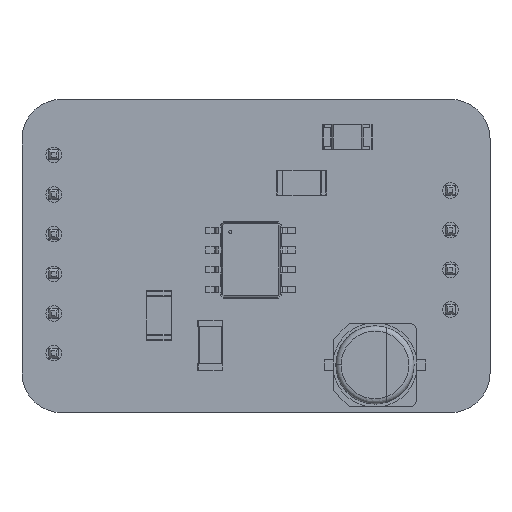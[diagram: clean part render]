
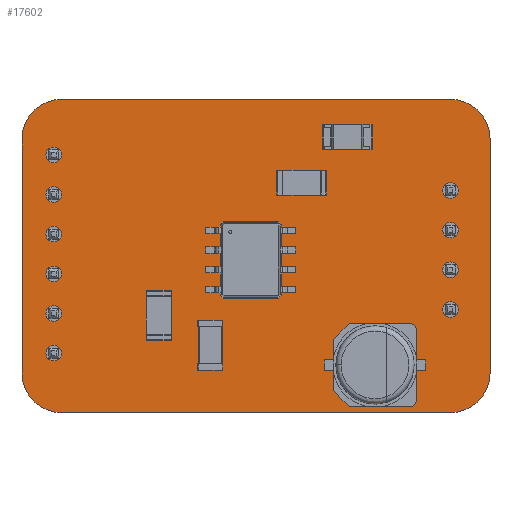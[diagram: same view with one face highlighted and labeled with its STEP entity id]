
A CAD part, top view. The second image highlights one B-rep face of the part: STEP entity #17602.
In plain terms, the highlighted planar face has unit normal (0, 0, 1).
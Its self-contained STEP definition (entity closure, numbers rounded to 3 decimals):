
#17277 = VERTEX_POINT('',#17278);
#17278 = CARTESIAN_POINT('',(27.432,0.,1.6));
#17284 = EDGE_CURVE('',#17277,#17285,#17287,.T.);
#17285 = VERTEX_POINT('',#17286);
#17286 = CARTESIAN_POINT('',(29.972,-2.54,1.6));
#17287 = CIRCLE('',#17288,2.54);
#17288 = AXIS2_PLACEMENT_3D('',#17289,#17290,#17291);
#17289 = CARTESIAN_POINT('',(27.432,-2.54,1.6));
#17290 = DIRECTION('',(0.,0.,-1.));
#17291 = DIRECTION('',(0.,1.,0.));
#17319 = VERTEX_POINT('',#17320);
#17320 = CARTESIAN_POINT('',(2.54,0.,1.6));
#17326 = EDGE_CURVE('',#17319,#17277,#17327,.T.);
#17327 = LINE('',#17328,#17329);
#17328 = CARTESIAN_POINT('',(2.54,0.,1.6));
#17329 = VECTOR('',#17330,1.);
#17330 = DIRECTION('',(1.,0.,0.));
#17348 = EDGE_CURVE('',#17285,#17349,#17351,.T.);
#17349 = VERTEX_POINT('',#17350);
#17350 = CARTESIAN_POINT('',(29.972,-17.526,1.6));
#17351 = LINE('',#17352,#17353);
#17352 = CARTESIAN_POINT('',(29.972,-2.54,1.6));
#17353 = VECTOR('',#17354,1.);
#17354 = DIRECTION('',(0.,-1.,0.));
#17602 = ADVANCED_FACE('',(#17603,#17649,#17660,#17671,#17682,#17693,
    #17704,#17715,#17726,#17737,#17748,#17759,#17770,#17781,#17792,
    #17803,#17814),#17825,.T.);
#17603 = FACE_BOUND('',#17604,.T.);
#17604 = EDGE_LOOP('',(#17605,#17606,#17607,#17616,#17624,#17633,#17641,
    #17648));
#17605 = ORIENTED_EDGE('',*,*,#17284,.F.);
#17606 = ORIENTED_EDGE('',*,*,#17326,.F.);
#17607 = ORIENTED_EDGE('',*,*,#17608,.F.);
#17608 = EDGE_CURVE('',#17609,#17319,#17611,.T.);
#17609 = VERTEX_POINT('',#17610);
#17610 = CARTESIAN_POINT('',(0.,-2.54,1.6));
#17611 = CIRCLE('',#17612,2.54);
#17612 = AXIS2_PLACEMENT_3D('',#17613,#17614,#17615);
#17613 = CARTESIAN_POINT('',(2.54,-2.54,1.6));
#17614 = DIRECTION('',(0.,0.,-1.));
#17615 = DIRECTION('',(-1.,0.,0.));
#17616 = ORIENTED_EDGE('',*,*,#17617,.F.);
#17617 = EDGE_CURVE('',#17618,#17609,#17620,.T.);
#17618 = VERTEX_POINT('',#17619);
#17619 = CARTESIAN_POINT('',(0.,-17.526,1.6));
#17620 = LINE('',#17621,#17622);
#17621 = CARTESIAN_POINT('',(0.,-17.526,1.6));
#17622 = VECTOR('',#17623,1.);
#17623 = DIRECTION('',(0.,1.,0.));
#17624 = ORIENTED_EDGE('',*,*,#17625,.F.);
#17625 = EDGE_CURVE('',#17626,#17618,#17628,.T.);
#17626 = VERTEX_POINT('',#17627);
#17627 = CARTESIAN_POINT('',(2.54,-20.066,1.6));
#17628 = CIRCLE('',#17629,2.54);
#17629 = AXIS2_PLACEMENT_3D('',#17630,#17631,#17632);
#17630 = CARTESIAN_POINT('',(2.54,-17.526,1.6));
#17631 = DIRECTION('',(0.,0.,-1.));
#17632 = DIRECTION('',(0.,-1.,-0.));
#17633 = ORIENTED_EDGE('',*,*,#17634,.F.);
#17634 = EDGE_CURVE('',#17635,#17626,#17637,.T.);
#17635 = VERTEX_POINT('',#17636);
#17636 = CARTESIAN_POINT('',(27.432,-20.066,1.6));
#17637 = LINE('',#17638,#17639);
#17638 = CARTESIAN_POINT('',(27.432,-20.066,1.6));
#17639 = VECTOR('',#17640,1.);
#17640 = DIRECTION('',(-1.,0.,0.));
#17641 = ORIENTED_EDGE('',*,*,#17642,.F.);
#17642 = EDGE_CURVE('',#17349,#17635,#17643,.T.);
#17643 = CIRCLE('',#17644,2.54);
#17644 = AXIS2_PLACEMENT_3D('',#17645,#17646,#17647);
#17645 = CARTESIAN_POINT('',(27.432,-17.526,1.6));
#17646 = DIRECTION('',(0.,0.,-1.));
#17647 = DIRECTION('',(1.,0.,0.));
#17648 = ORIENTED_EDGE('',*,*,#17348,.F.);
#17649 = FACE_BOUND('',#17650,.T.);
#17650 = EDGE_LOOP('',(#17651));
#17651 = ORIENTED_EDGE('',*,*,#17652,.T.);
#17652 = EDGE_CURVE('',#17653,#17653,#17655,.T.);
#17653 = VERTEX_POINT('',#17654);
#17654 = CARTESIAN_POINT('',(2.032,-16.756,1.6));
#17655 = CIRCLE('',#17656,0.5);
#17656 = AXIS2_PLACEMENT_3D('',#17657,#17658,#17659);
#17657 = CARTESIAN_POINT('',(2.032,-16.256,1.6));
#17658 = DIRECTION('',(-0.,0.,-1.));
#17659 = DIRECTION('',(-0.,-1.,0.));
#17660 = FACE_BOUND('',#17661,.T.);
#17661 = EDGE_LOOP('',(#17662));
#17662 = ORIENTED_EDGE('',*,*,#17663,.T.);
#17663 = EDGE_CURVE('',#17664,#17664,#17666,.T.);
#17664 = VERTEX_POINT('',#17665);
#17665 = CARTESIAN_POINT('',(2.032,-14.216,1.6));
#17666 = CIRCLE('',#17667,0.5);
#17667 = AXIS2_PLACEMENT_3D('',#17668,#17669,#17670);
#17668 = CARTESIAN_POINT('',(2.032,-13.716,1.6));
#17669 = DIRECTION('',(-0.,0.,-1.));
#17670 = DIRECTION('',(-0.,-1.,0.));
#17671 = FACE_BOUND('',#17672,.T.);
#17672 = EDGE_LOOP('',(#17673));
#17673 = ORIENTED_EDGE('',*,*,#17674,.T.);
#17674 = EDGE_CURVE('',#17675,#17675,#17677,.T.);
#17675 = VERTEX_POINT('',#17676);
#17676 = CARTESIAN_POINT('',(2.032,-11.676,1.6));
#17677 = CIRCLE('',#17678,0.5);
#17678 = AXIS2_PLACEMENT_3D('',#17679,#17680,#17681);
#17679 = CARTESIAN_POINT('',(2.032,-11.176,1.6));
#17680 = DIRECTION('',(-0.,0.,-1.));
#17681 = DIRECTION('',(-0.,-1.,0.));
#17682 = FACE_BOUND('',#17683,.T.);
#17683 = EDGE_LOOP('',(#17684));
#17684 = ORIENTED_EDGE('',*,*,#17685,.T.);
#17685 = EDGE_CURVE('',#17686,#17686,#17688,.T.);
#17686 = VERTEX_POINT('',#17687);
#17687 = CARTESIAN_POINT('',(14.001,-11.752,1.6));
#17688 = CIRCLE('',#17689,0.165);
#17689 = AXIS2_PLACEMENT_3D('',#17690,#17691,#17692);
#17690 = CARTESIAN_POINT('',(14.001,-11.587,1.6));
#17691 = DIRECTION('',(-0.,0.,-1.));
#17692 = DIRECTION('',(0.,-1.,0.));
#17693 = FACE_BOUND('',#17694,.T.);
#17694 = EDGE_LOOP('',(#17695));
#17695 = ORIENTED_EDGE('',*,*,#17696,.T.);
#17696 = EDGE_CURVE('',#17697,#17697,#17699,.T.);
#17697 = VERTEX_POINT('',#17698);
#17698 = CARTESIAN_POINT('',(14.001,-10.452,1.6));
#17699 = CIRCLE('',#17700,0.165);
#17700 = AXIS2_PLACEMENT_3D('',#17701,#17702,#17703);
#17701 = CARTESIAN_POINT('',(14.001,-10.287,1.6));
#17702 = DIRECTION('',(-0.,0.,-1.));
#17703 = DIRECTION('',(0.,-1.,0.));
#17704 = FACE_BOUND('',#17705,.T.);
#17705 = EDGE_LOOP('',(#17706));
#17706 = ORIENTED_EDGE('',*,*,#17707,.T.);
#17707 = EDGE_CURVE('',#17708,#17708,#17710,.T.);
#17708 = VERTEX_POINT('',#17709);
#17709 = CARTESIAN_POINT('',(27.432,-13.952,1.6));
#17710 = CIRCLE('',#17711,0.5);
#17711 = AXIS2_PLACEMENT_3D('',#17712,#17713,#17714);
#17712 = CARTESIAN_POINT('',(27.432,-13.452,1.6));
#17713 = DIRECTION('',(-0.,0.,-1.));
#17714 = DIRECTION('',(-0.,-1.,0.));
#17715 = FACE_BOUND('',#17716,.T.);
#17716 = EDGE_LOOP('',(#17717));
#17717 = ORIENTED_EDGE('',*,*,#17718,.T.);
#17718 = EDGE_CURVE('',#17719,#17719,#17721,.T.);
#17719 = VERTEX_POINT('',#17720);
#17720 = CARTESIAN_POINT('',(15.301,-11.752,1.6));
#17721 = CIRCLE('',#17722,0.165);
#17722 = AXIS2_PLACEMENT_3D('',#17723,#17724,#17725);
#17723 = CARTESIAN_POINT('',(15.301,-11.587,1.6));
#17724 = DIRECTION('',(-0.,0.,-1.));
#17725 = DIRECTION('',(0.,-1.,-0.));
#17726 = FACE_BOUND('',#17727,.T.);
#17727 = EDGE_LOOP('',(#17728));
#17728 = ORIENTED_EDGE('',*,*,#17729,.T.);
#17729 = EDGE_CURVE('',#17730,#17730,#17732,.T.);
#17730 = VERTEX_POINT('',#17731);
#17731 = CARTESIAN_POINT('',(15.301,-10.452,1.6));
#17732 = CIRCLE('',#17733,0.165);
#17733 = AXIS2_PLACEMENT_3D('',#17734,#17735,#17736);
#17734 = CARTESIAN_POINT('',(15.301,-10.287,1.6));
#17735 = DIRECTION('',(-0.,0.,-1.));
#17736 = DIRECTION('',(0.,-1.,-0.));
#17737 = FACE_BOUND('',#17738,.T.);
#17738 = EDGE_LOOP('',(#17739));
#17739 = ORIENTED_EDGE('',*,*,#17740,.T.);
#17740 = EDGE_CURVE('',#17741,#17741,#17743,.T.);
#17741 = VERTEX_POINT('',#17742);
#17742 = CARTESIAN_POINT('',(27.432,-11.412,1.6));
#17743 = CIRCLE('',#17744,0.5);
#17744 = AXIS2_PLACEMENT_3D('',#17745,#17746,#17747);
#17745 = CARTESIAN_POINT('',(27.432,-10.912,1.6));
#17746 = DIRECTION('',(-0.,0.,-1.));
#17747 = DIRECTION('',(-0.,-1.,0.));
#17748 = FACE_BOUND('',#17749,.T.);
#17749 = EDGE_LOOP('',(#17750));
#17750 = ORIENTED_EDGE('',*,*,#17751,.T.);
#17751 = EDGE_CURVE('',#17752,#17752,#17754,.T.);
#17752 = VERTEX_POINT('',#17753);
#17753 = CARTESIAN_POINT('',(2.032,-9.136,1.6));
#17754 = CIRCLE('',#17755,0.5);
#17755 = AXIS2_PLACEMENT_3D('',#17756,#17757,#17758);
#17756 = CARTESIAN_POINT('',(2.032,-8.636,1.6));
#17757 = DIRECTION('',(-0.,0.,-1.));
#17758 = DIRECTION('',(-0.,-1.,0.));
#17759 = FACE_BOUND('',#17760,.T.);
#17760 = EDGE_LOOP('',(#17761));
#17761 = ORIENTED_EDGE('',*,*,#17762,.T.);
#17762 = EDGE_CURVE('',#17763,#17763,#17765,.T.);
#17763 = VERTEX_POINT('',#17764);
#17764 = CARTESIAN_POINT('',(14.001,-9.152,1.6));
#17765 = CIRCLE('',#17766,0.165);
#17766 = AXIS2_PLACEMENT_3D('',#17767,#17768,#17769);
#17767 = CARTESIAN_POINT('',(14.001,-8.987,1.6));
#17768 = DIRECTION('',(-0.,0.,-1.));
#17769 = DIRECTION('',(0.,-1.,0.));
#17770 = FACE_BOUND('',#17771,.T.);
#17771 = EDGE_LOOP('',(#17772));
#17772 = ORIENTED_EDGE('',*,*,#17773,.T.);
#17773 = EDGE_CURVE('',#17774,#17774,#17776,.T.);
#17774 = VERTEX_POINT('',#17775);
#17775 = CARTESIAN_POINT('',(2.032,-6.596,1.6));
#17776 = CIRCLE('',#17777,0.5);
#17777 = AXIS2_PLACEMENT_3D('',#17778,#17779,#17780);
#17778 = CARTESIAN_POINT('',(2.032,-6.096,1.6));
#17779 = DIRECTION('',(-0.,0.,-1.));
#17780 = DIRECTION('',(-0.,-1.,0.));
#17781 = FACE_BOUND('',#17782,.T.);
#17782 = EDGE_LOOP('',(#17783));
#17783 = ORIENTED_EDGE('',*,*,#17784,.T.);
#17784 = EDGE_CURVE('',#17785,#17785,#17787,.T.);
#17785 = VERTEX_POINT('',#17786);
#17786 = CARTESIAN_POINT('',(2.032,-4.056,1.6));
#17787 = CIRCLE('',#17788,0.5);
#17788 = AXIS2_PLACEMENT_3D('',#17789,#17790,#17791);
#17789 = CARTESIAN_POINT('',(2.032,-3.556,1.6));
#17790 = DIRECTION('',(-0.,0.,-1.));
#17791 = DIRECTION('',(-0.,-1.,0.));
#17792 = FACE_BOUND('',#17793,.T.);
#17793 = EDGE_LOOP('',(#17794));
#17794 = ORIENTED_EDGE('',*,*,#17795,.T.);
#17795 = EDGE_CURVE('',#17796,#17796,#17798,.T.);
#17796 = VERTEX_POINT('',#17797);
#17797 = CARTESIAN_POINT('',(15.301,-9.152,1.6));
#17798 = CIRCLE('',#17799,0.165);
#17799 = AXIS2_PLACEMENT_3D('',#17800,#17801,#17802);
#17800 = CARTESIAN_POINT('',(15.301,-8.987,1.6));
#17801 = DIRECTION('',(-0.,0.,-1.));
#17802 = DIRECTION('',(0.,-1.,-0.));
#17803 = FACE_BOUND('',#17804,.T.);
#17804 = EDGE_LOOP('',(#17805));
#17805 = ORIENTED_EDGE('',*,*,#17806,.T.);
#17806 = EDGE_CURVE('',#17807,#17807,#17809,.T.);
#17807 = VERTEX_POINT('',#17808);
#17808 = CARTESIAN_POINT('',(27.432,-8.872,1.6));
#17809 = CIRCLE('',#17810,0.5);
#17810 = AXIS2_PLACEMENT_3D('',#17811,#17812,#17813);
#17811 = CARTESIAN_POINT('',(27.432,-8.372,1.6));
#17812 = DIRECTION('',(-0.,0.,-1.));
#17813 = DIRECTION('',(-0.,-1.,0.));
#17814 = FACE_BOUND('',#17815,.T.);
#17815 = EDGE_LOOP('',(#17816));
#17816 = ORIENTED_EDGE('',*,*,#17817,.T.);
#17817 = EDGE_CURVE('',#17818,#17818,#17820,.T.);
#17818 = VERTEX_POINT('',#17819);
#17819 = CARTESIAN_POINT('',(27.432,-6.332,1.6));
#17820 = CIRCLE('',#17821,0.5);
#17821 = AXIS2_PLACEMENT_3D('',#17822,#17823,#17824);
#17822 = CARTESIAN_POINT('',(27.432,-5.832,1.6));
#17823 = DIRECTION('',(-0.,0.,-1.));
#17824 = DIRECTION('',(-0.,-1.,0.));
#17825 = PLANE('',#17826);
#17826 = AXIS2_PLACEMENT_3D('',#17827,#17828,#17829);
#17827 = CARTESIAN_POINT('',(0.,0.,1.6));
#17828 = DIRECTION('',(0.,0.,1.));
#17829 = DIRECTION('',(1.,0.,-0.));
